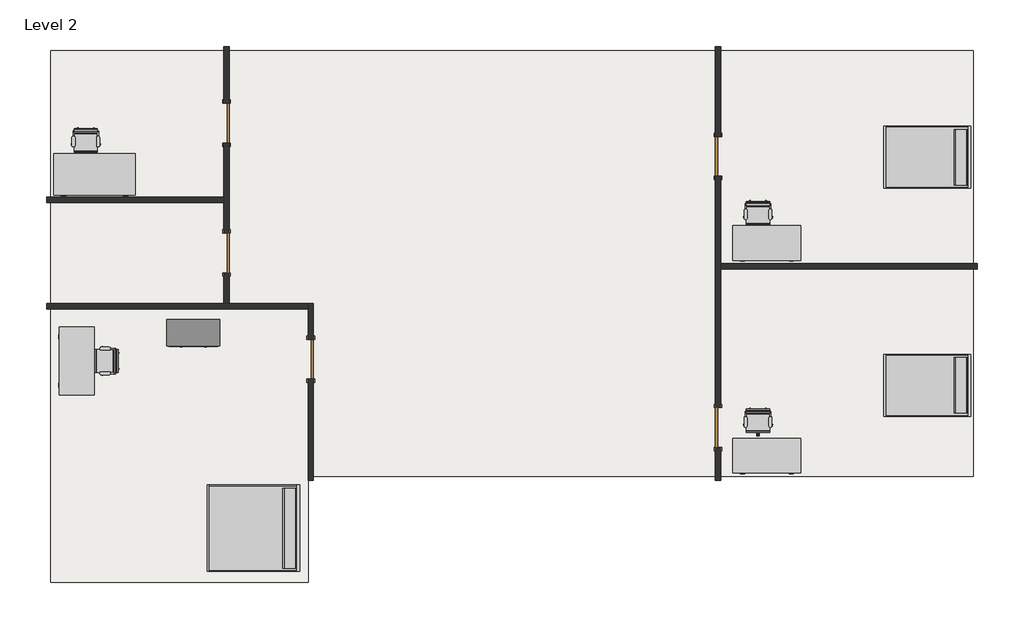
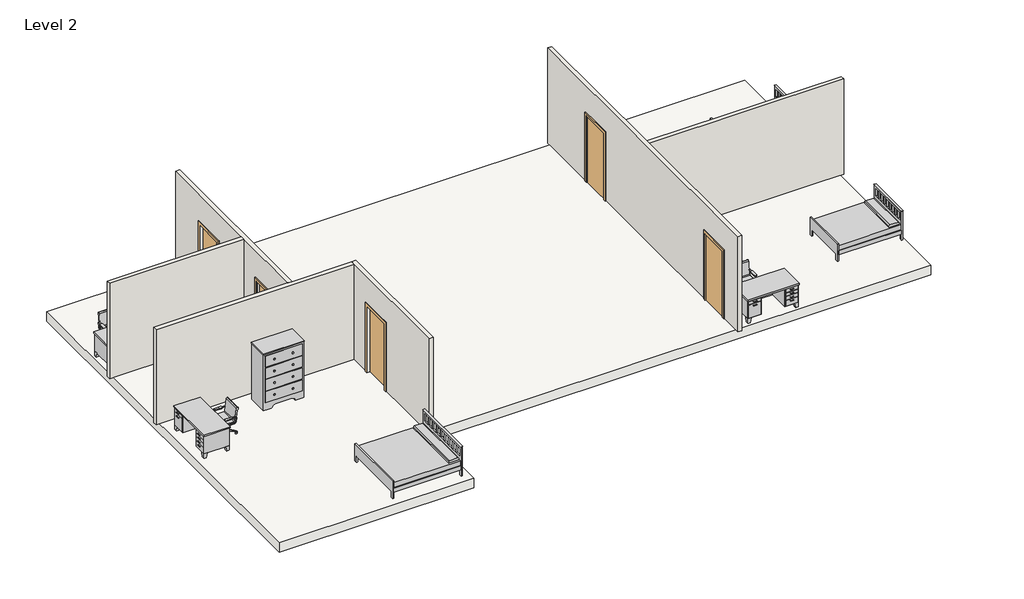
# One storey: 12 furniture elements, 6 walls, 5 doors, 1 slab.
"""IFC4 building model written with IfcOpenShell, lengths in millimetres."""

from ifc_helpers import new_model, si_unit, frame, origin, place, context, project, spatial, polyline, outline, extrude, faceted_brep, transform, mapped, element, save
from components import door_88503111, furniture_096e7f55, furniture_29cd36cd, chair_task_arms1_chair_task_arms_fa5a08ef, furniture_013ab306, furniture_95783df2, furniture_9fa109b2

model = new_model("IFC4")

# Units and contexts
model_context = context("Model", 3, world=origin())
ifc_project = project(units=[si_unit("LENGTHUNIT", "METRE", prefix="MILLI")], contexts=[model_context])

# Site, building, storey
site = spatial("IfcSite", under=ifc_project)
building = spatial("IfcBuilding", under=site)
storey = spatial("IfcBuildingStorey", under=building, Name="Level 2", Elevation=3048.0)

# Doors
placement = place(None, origin())
door_shape = door_88503111(model_context)
element("IfcDoor", 1, ObjectType="Single-Flush : 36\" x 84\"", at=placement, inside=storey, context=model_context, shape_type="MappedRepresentation", body=[
    mapped(door_shape, transform((-7808.336872, 4725.6625011, 3048.0), x_axis=(0.0, -1.0, 0.0), y_axis=(1.0, 0.0, 0.0), z_axis=(0.0, 0.0, 1.0))),
])
element("IfcDoor", 2, ObjectType="Single-Flush : 36\" x 84\"", at=placement, inside=storey, context=model_context, shape_type="MappedRepresentation", body=[
    mapped(door_shape, transform((-7808.336872, 1748.3062511, 3048.0), x_axis=(0.0, -1.0, 0.0), y_axis=(1.0, 0.0, 0.0), z_axis=(0.0, 0.0, 1.0))),
])
element("IfcDoor", 3, ObjectType="Single-Flush : 36\" x 84\"", at=placement, inside=storey, context=model_context, shape_type="MappedRepresentation", body=[
    mapped(door_shape, transform((-5877.936872, -690.0937489, 3048.0), x_axis=(0.0, -1.0, 0.0), y_axis=(1.0, 0.0, 0.0), z_axis=(0.0, 0.0, 1.0))),
])
element("IfcDoor", 4, ObjectType="Single-Flush : 36\" x 84\"", at=placement, inside=storey, context=model_context, shape_type="MappedRepresentation", body=[
    mapped(door_shape, transform((3458.150628, -2253.7812489, 3048.0), x_axis=(0.0, 1.0, 0.0), y_axis=(-1.0, 0.0, 0.0), z_axis=(0.0, 0.0, 1.0))),
])
element("IfcDoor", 5, ObjectType="Single-Flush : 36\" x 84\"", at=placement, inside=storey, context=model_context, shape_type="MappedRepresentation", body=[
    mapped(door_shape, transform((3458.150628, 3963.6625011, 3048.0), x_axis=(0.0, 1.0, 0.0), y_axis=(-1.0, 0.0, 0.0), z_axis=(0.0, 0.0, 1.0))),
])

# Furniture
furniture_shape = furniture_096e7f55(model_context)
element("IfcFurniture", 6, ObjectType="Bed-Shaker : Double 56\" x 78\"", at=placement, inside=storey, context=model_context, shape_type="MappedRepresentation", body=[
    mapped(furniture_shape, transform((9238.238128, 3924.7687511, 3048.0), x_axis=(0.0, -1.0, 0.0), y_axis=(1.0, 0.0, 0.0), z_axis=(0.0, 0.0, 1.0))),
])
element("IfcFurniture", 7, ObjectType="Bed-Shaker : Double 56\" x 78\"", at=placement, inside=storey, context=model_context, shape_type="MappedRepresentation", body=[
    mapped(furniture_shape, transform((9238.238128, -1307.6312489, 3048.0), x_axis=(0.0, -1.0, 0.0), y_axis=(1.0, 0.0, 0.0), z_axis=(0.0, 0.0, 1.0))),
])
furniture_2_shape = furniture_29cd36cd(model_context)
element("IfcFurniture", 8, ObjectType="Bed-Shaker : King 78\" x 83\"", at=placement, inside=storey, context=model_context, shape_type="MappedRepresentation", body=[
    mapped(furniture_2_shape, transform((-6143.049372, -4584.2312489, 3048.0), x_axis=(0.0, -1.0, 0.0), y_axis=(1.0, 0.0, 0.0), z_axis=(0.0, 0.0, 1.0))),
])
chair_task_arms1_chair_task_arms_shape = chair_task_arms1_chair_task_arms_fa5a08ef(model_context)
element("IfcFurniture", 9, ObjectType="Chair-Task Arms1 : Chair-Task Arms", at=placement, inside=storey, context=model_context, shape_type="MappedRepresentation", body=[
    mapped(chair_task_arms1_chair_task_arms_shape, transform((-10543.7034703, -870.7720685, 3048.0), x_axis=(0.0, 1.0, 0.0), y_axis=(-1.0, 0.0, 0.0), z_axis=(0.0, 0.0, 1.0))),
])
element("IfcFurniture", 10, ObjectType="Chair-Task Arms1 : Chair-Task Arms", at=placement, inside=storey, context=model_context, shape_type="MappedRepresentation", body=[
    mapped(chair_task_arms1_chair_task_arms_shape, transform((4513.5414477, 2681.6521528, 3048.0), x_axis=(-1.0, 0.0, 0.0), y_axis=(0.0, -1.0, 0.0), z_axis=(0.0, 0.0, 1.0))),
])
element("IfcFurniture", 11, ObjectType="Chair-Task Arms1 : Chair-Task Arms", at=placement, inside=storey, context=model_context, shape_type="MappedRepresentation", body=[
    mapped(chair_task_arms1_chair_task_arms_shape, transform((4513.5414477, -2082.4353472, 3048.0), x_axis=(-1.0, 0.0, 0.0), y_axis=(0.0, -1.0, 0.0), z_axis=(0.0, 0.0, 1.0))),
])
element("IfcFurniture", 12, ObjectType="Chair-Task Arms1 : Chair-Task Arms", at=placement, inside=storey, context=model_context, shape_type="MappedRepresentation", body=[
    mapped(chair_task_arms1_chair_task_arms_shape, transform((-10893.1460523, 4350.9549846, 3048.0), x_axis=(-1.0, 0.0, 0.0), y_axis=(0.0, -1.0, 0.0), z_axis=(0.0, 0.0, 1.0))),
])
furniture_3_shape = furniture_013ab306(model_context)
element("IfcFurniture", 13, ObjectType="Desk1 : 60\" x 30\" 2", at=placement, inside=storey, context=model_context, shape_type="MappedRepresentation", body=[
    mapped(furniture_3_shape, transform((3813.750628, 1595.9062511, 3048.0), x_axis=(1.0, 0.0, 0.0), y_axis=(0.0, 1.0, 0.0), z_axis=(0.0, 0.0, 1.0))),
])
element("IfcFurniture", 14, ObjectType="Desk1 : 60\" x 30\" 2", at=placement, inside=storey, context=model_context, shape_type="MappedRepresentation", body=[
    mapped(furniture_3_shape, transform((3813.750628, -3280.8937489, 3048.0), x_axis=(1.0, 0.0, 0.0), y_axis=(0.0, 1.0, 0.0), z_axis=(0.0, 0.0, 1.0))),
])
element("IfcFurniture", 15, ObjectType="Desk1 : 60\" x 30\" 2", at=placement, inside=storey, context=model_context, shape_type="MappedRepresentation", body=[
    mapped(furniture_3_shape, transform((-11618.336872, 32.2187511, 3048.0), x_axis=(0.0, -1.0, 0.0), y_axis=(1.0, 0.0, 0.0), z_axis=(0.0, 0.0, 1.0))),
])
furniture_4_shape = furniture_95783df2(model_context)
element("IfcFurniture", 16, ObjectType="Desk1 : 72\" x 36\" 2", at=placement, inside=storey, context=model_context, shape_type="MappedRepresentation", body=[
    mapped(furniture_4_shape, transform((-11592.936872, 3167.5312511, 3048.0), x_axis=(1.0, 0.0, 0.0), y_axis=(0.0, 1.0, 0.0), z_axis=(0.0, 0.0, 1.0))),
])
furniture_5_shape = furniture_9fa109b2(model_context)
element("IfcFurniture", 17, ObjectType="Dresser : 48\" x 72\" x 24\"", at=placement, inside=storey, context=model_context, shape_type="MappedRepresentation", body=[
    mapped(furniture_5_shape, transform((-8301.1436121, 282.6692052, 3048.0), x_axis=(1.0, 0.0, 0.0), y_axis=(0.0, 1.0, 0.0), z_axis=(0.0, 0.0, 1.0))),
])

# Slab
element("IfcSlab", 18, ObjectType="Generic - 12\"", at=placement, inside=storey, context=model_context, shape_type="SweptSolid", body=[
    extrude(outline(polyline([(-11832.649372, -5809.7812489), (-11832.649372, 6382.2187511), (9300.150628, 6382.2187511), (9300.150628, -3371.3812489), (-5939.849372, -3371.3812489), (-5939.849372, -5809.7812489), (-11832.649372, -5809.7812489)])), frame((0.0, 0.0, 2743.2), z_axis=(0.0, 0.0, 1.0), x_axis=(1.0, 0.0, 0.0)), (0.0, 0.0, 1.0), 304.8),
])

# Walls
element("IfcWall", 19, ObjectType="Interior - 4 7/8\" Partition (1-hr)", at=placement, inside=storey, context=model_context, shape_type="Brep", body=[
    faceted_brep([(-5816.024372, -3472.9812489, 3048.0), (-5816.024372, -1147.2937489, 3048.0), (-5816.024372, -1147.2937489, 5181.6), (-5816.024372, -232.8937489, 5181.6), (-5816.024372, -232.8937489, 3048.0), (-5816.024372, 591.0187511, 3048.0), (-5816.024372, 591.0187511, 6096.0), (-5816.024372, -3472.9812489, 6096.0), (-5939.849372, -1147.2937489, 5181.6), (-5939.849372, -1147.2937489, 3048.0), (-5939.849372, -3472.9812489, 3048.0), (-5939.849372, -3472.9812489, 6096.0), (-5939.849372, 467.1937511, 6096.0), (-5939.849372, 591.0187511, 6096.0), (-5939.849372, 591.0187511, 3048.0), (-5939.849372, 467.1937511, 3048.0), (-5939.849372, -232.8937489, 3048.0), (-5939.849372, -232.8937489, 5181.6)], [[[0, 1, 2, 3, 4, 5, 6, 7]], [[8, 9, 10, 11, 12, 13, 14, 15, 16, 17]], [[10, 9, 1, 0]], [[16, 15, 14, 5, 4]], [[7, 6, 13, 12, 11]], [[0, 7, 11, 10]], [[6, 5, 14, 13]], [[2, 1, 9, 8]], [[3, 2, 8, 17]], [[4, 3, 17, 16]]]),
])
element("IfcWall", 20, ObjectType="Interior - 4 7/8\" Partition (1-hr)", at=placement, inside=storey, context=model_context, shape_type="Brep", body=[
    faceted_brep([(-5939.849372, 591.0187511, 3048.0), (-7746.424372, 591.0187511, 3048.0), (-7870.249372, 591.0187511, 3048.0), (-11934.249372, 591.0187511, 3048.0), (-11934.249372, 591.0187511, 6096.0), (-7870.249372, 591.0187511, 6096.0), (-7746.424372, 591.0187511, 6096.0), (-5939.849372, 591.0187511, 6096.0), (-5939.849372, 467.1937511, 3048.0), (-5939.849372, 467.1937511, 6096.0), (-11934.249372, 467.1937511, 6096.0), (-11934.249372, 467.1937511, 3048.0)], [[[0, 1, 2, 3, 4, 5, 6, 7]], [[8, 9, 10, 11]], [[3, 2, 1, 0, 8, 11]], [[4, 3, 11, 10]], [[7, 6, 5, 4, 10, 9]], [[0, 7, 9, 8]]]),
])
element("IfcWall", 21, ObjectType="Interior - 4 7/8\" Partition (1-hr)", at=placement, inside=storey, context=model_context, shape_type="Brep", body=[
    faceted_brep([(-7870.249372, 1291.1062511, 5181.6), (-7870.249372, 1291.1062511, 3048.0), (-7870.249372, 591.0187511, 3048.0), (-7870.249372, 591.0187511, 6096.0), (-7870.249372, 2905.5937511, 6096.0), (-7870.249372, 3029.4187511, 6096.0), (-7870.249372, 6483.8187511, 6096.0), (-7870.249372, 6483.8187511, 3048.0), (-7870.249372, 5182.8625011, 3048.0), (-7870.249372, 5182.8625011, 5181.6), (-7870.249372, 4268.4625011, 5181.6), (-7870.249372, 4268.4625011, 3048.0), (-7870.249372, 3029.4187511, 3048.0), (-7870.249372, 2905.5937511, 3048.0), (-7870.249372, 2205.5062511, 3048.0), (-7870.249372, 2205.5062511, 5181.6), (-7746.424372, 591.0187511, 3048.0), (-7746.424372, 1291.1062511, 3048.0), (-7746.424372, 1291.1062511, 5181.6), (-7746.424372, 2205.5062511, 5181.6), (-7746.424372, 2205.5062511, 3048.0), (-7746.424372, 4268.4625011, 3048.0), (-7746.424372, 4268.4625011, 5181.6), (-7746.424372, 5182.8625011, 5181.6), (-7746.424372, 5182.8625011, 3048.0), (-7746.424372, 6483.8187511, 3048.0), (-7746.424372, 6483.8187511, 6096.0), (-7746.424372, 591.0187511, 6096.0)], [[[0, 1, 2, 3, 4, 5, 6, 7, 8, 9, 10, 11, 12, 13, 14, 15]], [[16, 17, 18, 19, 20, 21, 22, 23, 24, 25, 26, 27]], [[8, 7, 25, 24]], [[2, 1, 17, 16]], [[14, 13, 12, 11, 21, 20]], [[6, 5, 4, 3, 27, 26]], [[7, 6, 26, 25]], [[3, 2, 16, 27]], [[22, 21, 11, 10]], [[23, 22, 10, 9]], [[24, 23, 9, 8]], [[18, 17, 1, 0]], [[19, 18, 0, 15]], [[20, 19, 15, 14]]]),
])
element("IfcWall", 22, ObjectType="Interior - 4 7/8\" Partition (1-hr)", at=placement, inside=storey, context=model_context, shape_type="SweptSolid", body=[
    extrude(outline(polyline([(-7870.249372, 2905.5937511), (-11934.249372, 2905.5937511), (-11934.249372, 3029.4187511), (-7870.249372, 3029.4187511), (-7870.249372, 2905.5937511)])), frame((0.0, 0.0, 3048.0), z_axis=(0.0, 0.0, 1.0), x_axis=(1.0, 0.0, 0.0)), (0.0, 0.0, 1.0), 3048.0),
])
element("IfcWall", 23, ObjectType="Interior - 4 7/8\" Partition (1-hr)", at=placement, inside=storey, context=model_context, shape_type="Brep", body=[
    faceted_brep([(3520.063128, 4420.8625011, 5181.6), (3520.063128, 4420.8625011, 3048.0), (3520.063128, 6483.8187511, 3048.0), (3520.063128, 6483.8187511, 6096.0), (3520.063128, 1505.4187511, 6096.0), (3520.063128, 1381.5937511, 6096.0), (3520.063128, -3472.9812489, 6096.0), (3520.063128, -3472.9812489, 3048.0), (3520.063128, -2710.9812489, 3048.0), (3520.063128, -2710.9812489, 5181.6), (3520.063128, -1796.5812489, 5181.6), (3520.063128, -1796.5812489, 3048.0), (3520.063128, 1381.5937511, 3048.0), (3520.063128, 1505.4187511, 3048.0), (3520.063128, 3506.4625011, 3048.0), (3520.063128, 3506.4625011, 5181.6), (3396.238128, 6483.8187511, 3048.0), (3396.238128, 4420.8625011, 3048.0), (3396.238128, 4420.8625011, 5181.6), (3396.238128, 3506.4625011, 5181.6), (3396.238128, 3506.4625011, 3048.0), (3396.238128, -1796.5812489, 3048.0), (3396.238128, -1796.5812489, 5181.6), (3396.238128, -2710.9812489, 5181.6), (3396.238128, -2710.9812489, 3048.0), (3396.238128, -3472.9812489, 3048.0), (3396.238128, -3472.9812489, 6096.0), (3396.238128, 6483.8187511, 6096.0)], [[[0, 1, 2, 3, 4, 5, 6, 7, 8, 9, 10, 11, 12, 13, 14, 15]], [[16, 17, 18, 19, 20, 21, 22, 23, 24, 25, 26, 27]], [[8, 7, 25, 24]], [[2, 1, 17, 16]], [[14, 13, 12, 11, 21, 20]], [[3, 2, 16, 27]], [[6, 5, 4, 3, 27, 26]], [[7, 6, 26, 25]], [[22, 21, 11, 10]], [[23, 22, 10, 9]], [[24, 23, 9, 8]], [[18, 17, 1, 0]], [[19, 18, 0, 15]], [[20, 19, 15, 14]]]),
])
element("IfcWall", 24, ObjectType="Interior - 4 7/8\" Partition (1-hr)", at=placement, inside=storey, context=model_context, shape_type="SweptSolid", body=[
    extrude(outline(polyline([(9401.750628, 1381.5937511), (3520.063128, 1381.5937511), (3520.063128, 1505.4187511), (9401.750628, 1505.4187511), (9401.750628, 1381.5937511)])), frame((0.0, 0.0, 3048.0), z_axis=(0.0, 0.0, 1.0), x_axis=(1.0, 0.0, 0.0)), (0.0, 0.0, 1.0), 3048.0),
])

save(model, "model.ifc")
